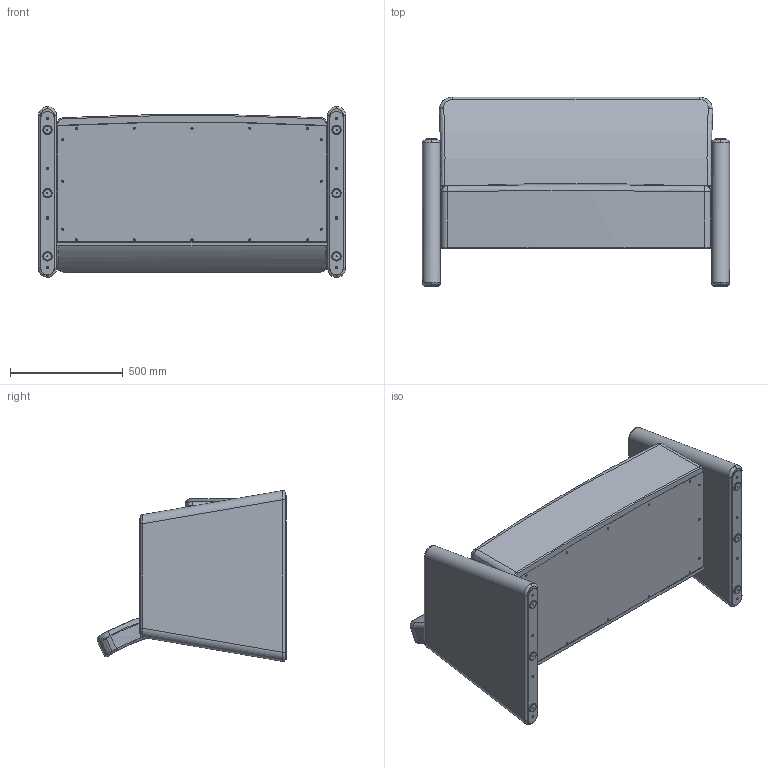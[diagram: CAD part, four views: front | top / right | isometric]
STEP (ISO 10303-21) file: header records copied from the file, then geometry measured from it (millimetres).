
FILE_DESCRIPTION(/* description */ ('STEP AP214'),/* implementation_level */ '2;1');
FILE_NAME(/* name */ 'Shore 2-Seater - STEP (Simplified).stp',/* time_stamp */ '2026-05-20T15:31:09+03:00',/* author */ ('Brian.Thangei'),/* organization */ (''),/* preprocessor_version */ 'ST-DEVELOPER v20',/* originating_system */ 'Autodesk Inventor 2025',/* authorisation */ '');
FILE_SCHEMA (('AUTOMOTIVE_DESIGN { 1 0 10303 214 3 1 1 }'));
Length unit declared in the file: millimetre
Products named in the file (1): 1301.02 - SHORE BH 2-SEATER
Bounding box: 1360 x 840.12 x 756.46 mm (x, y, z)
Volume: 115460475.4 mm3; surface area: 10102426.8 mm2
Topology: 17 solids, 17 shells, 395 faces, 893 edges, 546 vertices
Faces by surface type: cylinder 150, plane 150, bspline 34, torus 33, cone 28
Full cylindrical faces by diameter (mm): 3 x4, 4.5 x38, 5 x4, 5.5 x8, 10 x4, 38 x6, 41 x6
Entity records: 19004 total; most frequent: CARTESIAN_POINT 9894, DIRECTION 1947, ORIENTED_EDGE 1786, EDGE_CURVE 893, AXIS2_PLACEMENT_3D 773, VERTEX_POINT 546, EDGE_LOOP 517, LINE 401
